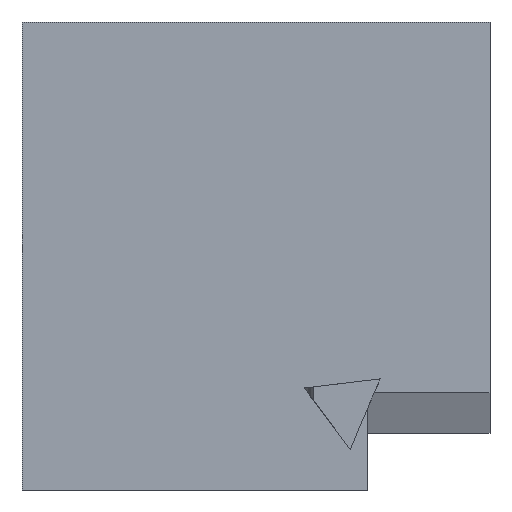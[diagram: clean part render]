
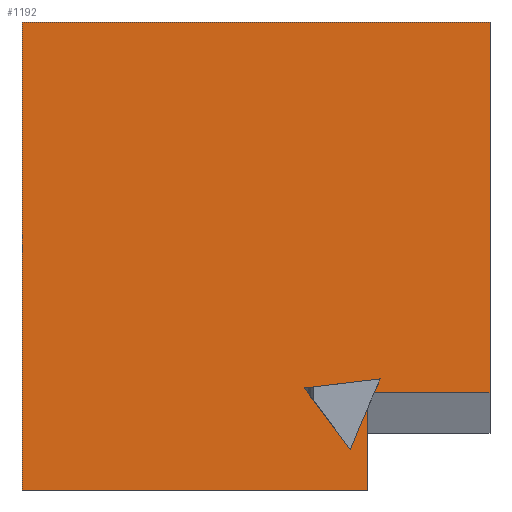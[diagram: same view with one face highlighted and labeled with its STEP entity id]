
A CAD part, left-side view. The second image highlights one B-rep face of the part: STEP entity #1192.
In plain terms, the highlighted planar face has unit normal (-1, 0, 0).
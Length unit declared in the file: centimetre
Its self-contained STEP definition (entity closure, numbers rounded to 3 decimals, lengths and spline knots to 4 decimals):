
#3 = ORIENTED_EDGE ( 'NONE', *, *, #567, .T. ) ;
#12 = ORIENTED_EDGE ( 'NONE', *, *, #78, .F. ) ;
#17 = CARTESIAN_POINT ( 'NONE',  ( 0., 1000., 1000. ) ) ;
#24 = CARTESIAN_POINT ( 'NONE',  ( 0., 1000., 1000. ) ) ;
#28 = VECTOR ( 'NONE', #583, 100. ) ;
#32 = VERTEX_POINT ( 'NONE', #729 ) ;
#36 = VERTEX_POINT ( 'NONE', #325 ) ;
#78 = EDGE_CURVE ( 'NONE', #650, #121, #1338, .T. ) ;
#79 = LINE ( 'NONE', #483, #140 ) ;
#121 = VERTEX_POINT ( 'NONE', #664 ) ;
#140 = VECTOR ( 'NONE', #1304, 100. ) ;
#152 = ORIENTED_EDGE ( 'NONE', *, *, #695, .F. ) ;
#160 = ORIENTED_EDGE ( 'NONE', *, *, #702, .F. ) ;
#256 = CARTESIAN_POINT ( 'NONE',  ( 0., 234.3722, 237.5891 ) ) ;
#279 = LINE ( 'NONE', #478, #867 ) ;
#298 = VERTEX_POINT ( 'NONE', #601 ) ;
#325 = CARTESIAN_POINT ( 'NONE',  ( 0., 247.0415, 207.9432 ) ) ;
#352 = CARTESIAN_POINT ( 'NONE',  ( 0., 1000., 1000. ) ) ;
#366 = CARTESIAN_POINT ( 'NONE',  ( 0., 262.4016, 207.9432 ) ) ;
#402 = LINE ( 'NONE', #431, #459 ) ;
#431 = CARTESIAN_POINT ( 'NONE',  ( 0., 298.7355, 86.9793 ) ) ;
#433 = DIRECTION ( 'NONE',  ( 0., 0., -1. ) ) ;
#459 = VECTOR ( 'NONE', #1261, 100. ) ;
#462 = PLANE ( 'NONE',  #1334 ) ;
#465 = ORIENTED_EDGE ( 'NONE', *, *, #846, .F. ) ;
#474 = VERTEX_POINT ( 'NONE', #17 ) ;
#478 = CARTESIAN_POINT ( 'NONE',  ( 0., 0., 1000. ) ) ;
#483 = CARTESIAN_POINT ( 'NONE',  ( 0., 1000., 0. ) ) ;
#490 = DIRECTION ( 'NONE',  ( 0., 0., -1. ) ) ;
#500 = VERTEX_POINT ( 'NONE', #638 ) ;
#522 = ORIENTED_EDGE ( 'NONE', *, *, #746, .T. ) ;
#546 = LINE ( 'NONE', #366, #1146 ) ;
#567 = EDGE_CURVE ( 'NONE', #474, #500, #725, .T. ) ;
#580 = VECTOR ( 'NONE', #1149, 100. ) ;
#583 = DIRECTION ( 'NONE',  ( 0., 0., -1. ) ) ;
#601 = CARTESIAN_POINT ( 'NONE',  ( 0., 262.4016, 0. ) ) ;
#626 = CARTESIAN_POINT ( 'NONE',  ( 0., 262.4016, 172.0004 ) ) ;
#638 = CARTESIAN_POINT ( 'NONE',  ( 0., 1000., 0. ) ) ;
#650 = VERTEX_POINT ( 'NONE', #673 ) ;
#664 = CARTESIAN_POINT ( 'NONE',  ( 0., 298.7355, 86.9793 ) ) ;
#673 = CARTESIAN_POINT ( 'NONE',  ( 0., 396.9858, 218.0245 ) ) ;
#676 = EDGE_CURVE ( 'NONE', #36, #809, #546, .T. ) ;
#680 = ORIENTED_EDGE ( 'NONE', *, *, #1092, .F. ) ;
#695 = EDGE_CURVE ( 'NONE', #1122, #650, #770, .T. ) ;
#702 = EDGE_CURVE ( 'NONE', #474, #32, #968, .T. ) ;
#725 = LINE ( 'NONE', #1158, #1273 ) ;
#729 = CARTESIAN_POINT ( 'NONE',  ( 0., 0., 1000. ) ) ;
#746 = EDGE_CURVE ( 'NONE', #500, #298, #79, .T. ) ;
#755 = VECTOR ( 'NONE', #874, 100. ) ;
#770 = LINE ( 'NONE', #1289, #755 ) ;
#771 = ORIENTED_EDGE ( 'NONE', *, *, #838, .F. ) ;
#809 = VERTEX_POINT ( 'NONE', #922 ) ;
#838 = EDGE_CURVE ( 'NONE', #32, #809, #279, .T. ) ;
#841 = DIRECTION ( 'NONE',  ( 0., -0.393, 0.92 ) ) ;
#846 = EDGE_CURVE ( 'NONE', #953, #298, #1227, .T. ) ;
#860 = DIRECTION ( 'NONE',  ( 1., 0., 0. ) ) ;
#867 = VECTOR ( 'NONE', #490, 100. ) ;
#871 = ORIENTED_EDGE ( 'NONE', *, *, #676, .T. ) ;
#874 = DIRECTION ( 'NONE',  ( 0., 0.993, -0.119 ) ) ;
#881 = DIRECTION ( 'NONE',  ( 0., -1., 0. ) ) ;
#911 = VECTOR ( 'NONE', #1085, 100. ) ;
#922 = CARTESIAN_POINT ( 'NONE',  ( 0., 0., 207.9432 ) ) ;
#949 = CARTESIAN_POINT ( 'NONE',  ( 0., 396.9858, 218.0245 ) ) ;
#950 = LINE ( 'NONE', #1355, #1147 ) ;
#953 = VERTEX_POINT ( 'NONE', #626 ) ;
#963 = EDGE_CURVE ( 'NONE', #36, #1122, #950, .T. ) ;
#968 = LINE ( 'NONE', #24, #911 ) ;
#974 = FACE_OUTER_BOUND ( 'NONE', #1155, .T. ) ;
#1062 = DIRECTION ( 'NONE',  ( 0., 0., -1. ) ) ;
#1085 = DIRECTION ( 'NONE',  ( 0., -1., 0. ) ) ;
#1086 = ORIENTED_EDGE ( 'NONE', *, *, #963, .F. ) ;
#1092 = EDGE_CURVE ( 'NONE', #121, #953, #402, .T. ) ;
#1122 = VERTEX_POINT ( 'NONE', #256 ) ;
#1146 = VECTOR ( 'NONE', #881, 100. ) ;
#1147 = VECTOR ( 'NONE', #841, 100. ) ;
#1149 = DIRECTION ( 'NONE',  ( 0., -0.6, -0.8 ) ) ;
#1155 = EDGE_LOOP ( 'NONE', ( #1086, #871, #771, #160, #3, #522, #465, #680, #12, #152 ) ) ;
#1158 = CARTESIAN_POINT ( 'NONE',  ( 0., 1000., 1000. ) ) ;
#1192 = ADVANCED_FACE ( 'NONE', ( #974 ), #462, .F. ) ;
#1227 = LINE ( 'NONE', #1327, #28 ) ;
#1261 = DIRECTION ( 'NONE',  ( 0., -0.393, 0.92 ) ) ;
#1273 = VECTOR ( 'NONE', #433, 100. ) ;
#1289 = CARTESIAN_POINT ( 'NONE',  ( 0., 234.3722, 237.5891 ) ) ;
#1304 = DIRECTION ( 'NONE',  ( 0., -1., 0. ) ) ;
#1327 = CARTESIAN_POINT ( 'NONE',  ( 0., 262.4016, 207.9432 ) ) ;
#1334 = AXIS2_PLACEMENT_3D ( 'NONE', #352, #860, #1062 ) ;
#1338 = LINE ( 'NONE', #949, #580 ) ;
#1355 = CARTESIAN_POINT ( 'NONE',  ( 0., 298.7355, 86.9793 ) ) ;
